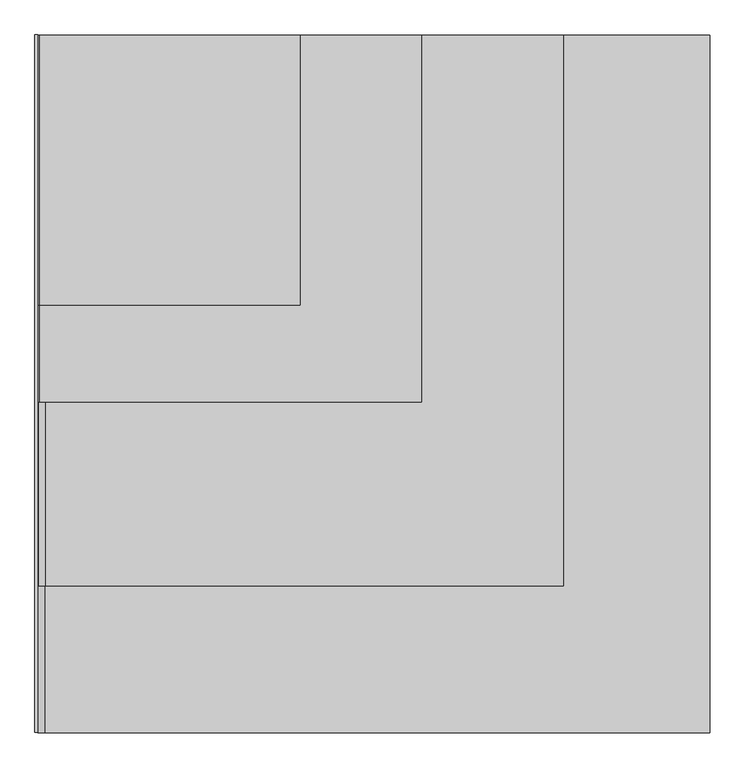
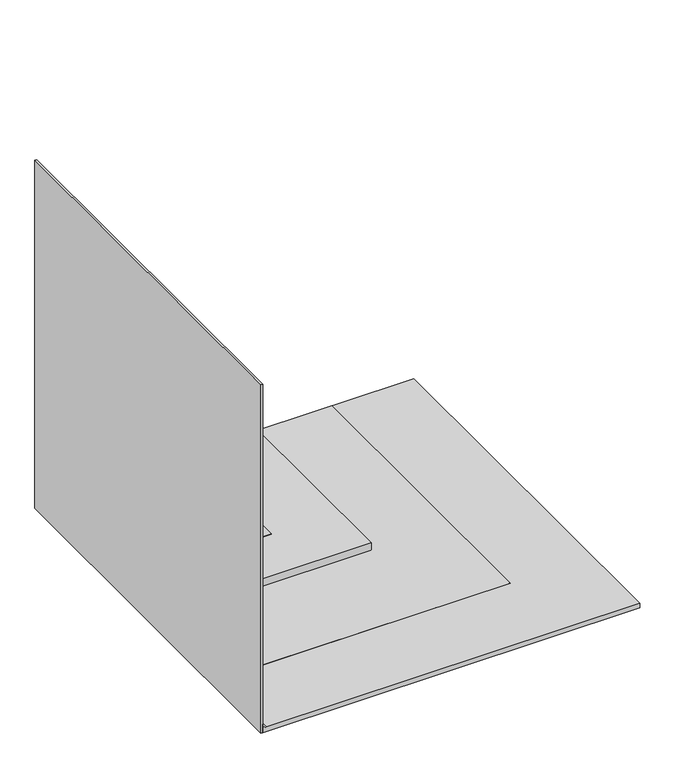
"""IFC4 building model written with IfcOpenShell, lengths in millimetres: proxy geometry, IMPER:IMPER:433934 : IMPER:IMPER:433934."""

from ifc_helpers import new_model, si_unit, point, frame, frame_2d, origin, place, context, project, spatial, polyline, circle_curve, trimmed, segment, composite_curve, outline, extrude, source, transform, mapped, element, save


def generic_models_aae9282f(model_context):
    return source(origin(), model_context, "Body", "SweptSolid", [
        extrude(outline(polyline([(-351.9704105, 145.8700195), (-340.9591004, 145.8700195), (-340.9591004, -2514.1299805), (-351.9704105, -2514.1299805), (-351.9704105, 145.8700195)])), frame((0.0, 0.0, -2.523798), z_axis=(0.0, 0.0, 1.0), x_axis=(1.0, 0.0, 0.0)), (0.0, 0.0, 1.0), 2500.0),
        extrude(outline(composite_curve([segment(polyline([(28.5018705, 2221.8598581), (28.5018705, -313.1902924)]), True, "CONTINUOUS"), segment(trimmed(circle_curve(frame_2d((57.476202, -311.9704105)), 29.0), [point((28.5018705, -313.1902924))], [point((56.6663512, -340.9591004))], True, "CARTESIAN"), True, "CONTINUOUS"), segment(polyline([(56.6663512, -340.9591004), (-2.523798, -340.9591004), (-2.523798, 2221.8598581), (28.5018705, 2221.8598581)]), True, "CONTINUOUS")], self_intersect=False)), frame((0.0, -2514.1299805, 0.0), z_axis=(0.0, 1.0, 0.0), x_axis=(0.0, 0.0, 1.0)), (0.0, 0.0, 1.0), 2660.0),
        extrude(outline(composite_curve([segment(polyline([(28.5018705, 1663.0408996), (29.5018705, 1663.0408996), (29.5018705, -313.1690659)]), True, "CONTINUOUS"), segment(trimmed(circle_curve(frame_2d((57.476202, -311.9704105)), 28.0), [point((29.5018705, -313.1690659))], [point((56.6804394, -339.9591004))], True, "CARTESIAN"), True, "CONTINUOUS"), segment(polyline([(56.6804394, -339.9591004), (82.5018705, -339.9591004), (82.5018705, -340.9591004), (56.6663512, -340.9591004)]), True, "CONTINUOUS"), segment(trimmed(circle_curve(frame_2d((57.476202, -311.9704105)), 29.0), [point((56.6663512, -340.9591004))], [point((28.5018705, -313.1902924))], False, "CARTESIAN"), True, "CONTINUOUS"), segment(polyline([(28.5018705, -313.1902924), (28.5018705, 1663.0408996)]), True, "CONTINUOUS")], self_intersect=False)), frame((0.0, -1954.1299805, 0.0), z_axis=(0.0, 1.0, 0.0), x_axis=(0.0, 0.0, 1.0)), (0.0, 0.0, 1.0), 2100.0),
        extrude(outline(composite_curve([segment(polyline([(29.5018705, -313.1690659), (29.5018705, 1123.0408996), (82.5018705, 1123.0408996), (82.5018705, -339.9591004), (56.6804394, -339.9591004)]), True, "CONTINUOUS"), segment(trimmed(circle_curve(frame_2d((57.476202, -311.9704105)), 28.0), [point((56.6804394, -339.9591004))], [point((29.5018705, -313.1690659))], False, "CARTESIAN"), True, "CONTINUOUS")], self_intersect=False)), frame((0.0, -1254.1299805, 0.0), z_axis=(0.0, 1.0, 0.0), x_axis=(0.0, 0.0, 1.0)), (0.0, 0.0, 1.0), 1400.0),
        extrude(outline(polyline([(-335.9591004, 145.8700195), (-335.9591004, -1254.1299805), (-340.9591004, -1254.1299805), (-340.9591004, 145.8700195), (-335.9591004, 145.8700195)])), frame((0.0, 0.0, 82.5018705), z_axis=(0.0, 0.0, 1.0), x_axis=(1.0, 0.0, 0.0)), (0.0, 0.0, 1.0), 5.0),
        extrude(outline(polyline([(82.5018705, 658.5255001), (87.5018705, 658.5255001), (87.5018705, -335.9591004), (176.4567461, -335.9591004), (176.4567461, -340.9591004), (82.5018705, -340.9591004), (82.5018705, 658.5255001)])), frame((0.0, -884.0129772, 0.0), z_axis=(0.0, 1.0, 0.0), x_axis=(0.0, 0.0, 1.0)), (0.0, 0.0, 1.0), 1029.8829967),
    ])


if __name__ == "__main__":
    model = new_model("IFC4")
    model_context = context("Model", 3, world=origin())
    ifc_project = project(units=[si_unit("LENGTHUNIT", "METRE", prefix="MILLI")], contexts=[model_context])
    site = spatial("IfcSite", under=ifc_project)
    building = spatial("IfcBuilding", under=site)
    placement = place(None, origin())
    generic_models_shape = generic_models_aae9282f(model_context)
    element("IfcBuildingElementProxy", 1, Name="IMPER:IMPER:433934 : IMPER:IMPER:433934", ObjectType="IMPER:IMPER:433934 : IMPER:IMPER:433934", at=placement, inside=building, context=model_context, shape_type="MappedRepresentation", body=[
        mapped(generic_models_shape, transform((0.0, 0.0, 0.0), x_axis=(1.0, 0.0, 0.0), y_axis=(0.0, 1.0, 0.0), z_axis=(0.0, 0.0, 1.0))),
    ])
    save(model, "model.ifc")
